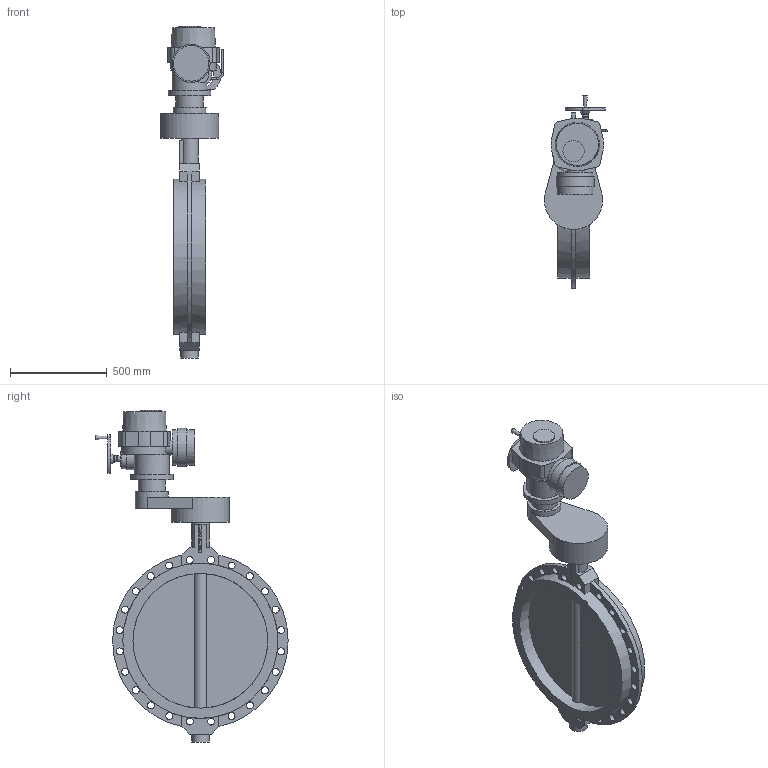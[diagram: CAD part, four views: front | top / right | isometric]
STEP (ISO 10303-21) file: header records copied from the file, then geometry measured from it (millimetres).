
FILE_DESCRIPTION(('STEP AP203'), '1');
FILE_NAME('Çàòâîð 017W.Z(÷óãóí) DN700+ÝÏ QT.A500', '', ('UNSPECIFIED'), ('UNSPECIFIED'), 'ASCON STEP Converter 1.6', 'ASCON Math Kernel', '');
FILE_SCHEMA(('CONFIG_CONTROL_DESIGN'));
Length unit declared in the file: millimetre
Bounding box: 324.45 x 991.5 x 1712 mm (x, y, z)
Volume: 70763138.3 mm3; surface area: 3173161.8 mm2
Topology: 1 solids, 1 shells, 752 faces, 2074 edges, 1378 vertices
Faces by surface type: cylinder 522, plane 226, cone 3, torus 1
Full cylindrical faces by diameter (mm): 10 x2, 14 x8, 16 x1, 18 x8, 32 x2, 35 x1, 36 x24, 80 x2, 90 x2, 100 x1, 110 x1, 140 x1, 170 x1, 180 x1, 183 x2, 196 x1, 220 x1, 300 x1, 695 x2, 800 x2
Entity records: 31114 total; most frequent: CARTESIAN_POINT 4990, DIRECTION 4565, ORIENTED_EDGE 4012, EDGE_CURVE 2006, AXIS2_PLACEMENT_3D 1822, VERTEX_POINT 1378, CIRCLE 1069, EDGE_LOOP 928
